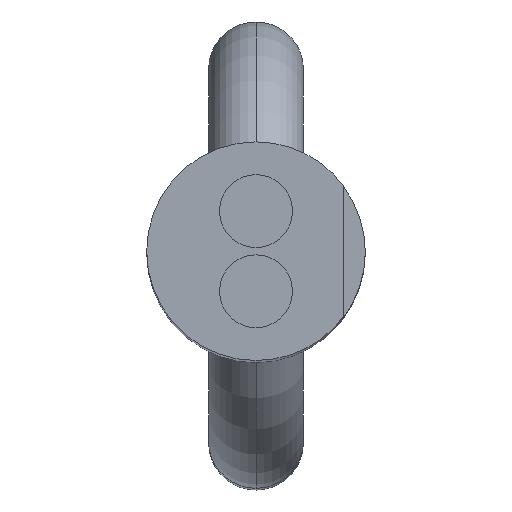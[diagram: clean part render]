
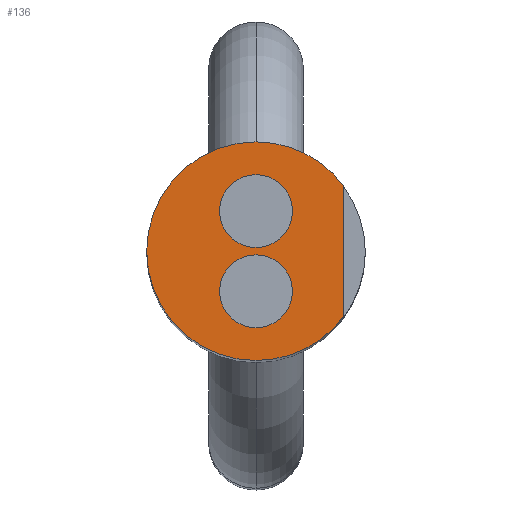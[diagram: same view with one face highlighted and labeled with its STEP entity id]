
A CAD part, top view. The second image highlights one B-rep face of the part: STEP entity #136.
In plain terms, the highlighted planar face has unit normal (0, 0, 1) as drawn and (-1, 0, 0) by its records, which use the part's own axes.
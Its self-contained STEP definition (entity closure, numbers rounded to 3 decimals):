
#27 = VERTEX_POINT ( 'NONE', #250 ) ;
#32 = EDGE_CURVE ( 'NONE', #27, #33, #449, .T. ) ;
#33 = VERTEX_POINT ( 'NONE', #444 ) ;
#57 = VERTEX_POINT ( 'NONE', #276 ) ;
#77 = VERTEX_POINT ( 'NONE', #235 ) ;
#83 = VERTEX_POINT ( 'NONE', #224 ) ;
#84 = ORIENTED_EDGE ( 'NONE', *, *, #85, .F. ) ;
#85 = EDGE_CURVE ( 'NONE', #33, #27, #463, .T. ) ;
#86 = ORIENTED_EDGE ( 'NONE', *, *, #32, .F. ) ;
#87 = EDGE_LOOP ( 'NONE', ( #88, #90 ) ) ;
#88 = ORIENTED_EDGE ( 'NONE', *, *, #89, .F. ) ;
#89 = EDGE_CURVE ( 'NONE', #77, #57, #458, .T. ) ;
#90 = ORIENTED_EDGE ( 'NONE', *, *, #122, .F. ) ;
#91 = EDGE_LOOP ( 'NONE', ( #92, #94, #95, #175 ) ) ;
#92 = ORIENTED_EDGE ( 'NONE', *, *, #93, .T. ) ;
#93 = EDGE_CURVE ( 'NONE', #83, #97, #453, .T. ) ;
#94 = ORIENTED_EDGE ( 'NONE', *, *, #96, .F. ) ;
#95 = ORIENTED_EDGE ( 'NONE', *, *, #135, .F. ) ;
#96 = EDGE_CURVE ( 'NONE', #106, #97, #415, .T. ) ;
#97 = VERTEX_POINT ( 'NONE', #410 ) ;
#106 = VERTEX_POINT ( 'NONE', #394 ) ;
#122 = EDGE_CURVE ( 'NONE', #57, #77, #535, .T. ) ;
#135 = EDGE_CURVE ( 'NONE', #139, #106, #499, .T. ) ;
#136 = ADVANCED_FACE ( 'NONE', ( #494, #493, #492 ), #491, .F. ) ;
#137 = EDGE_LOOP ( 'NONE', ( #84, #86 ) ) ;
#138 = EDGE_CURVE ( 'NONE', #83, #139, #486, .T. ) ;
#139 = VERTEX_POINT ( 'NONE', #481 ) ;
#175 = ORIENTED_EDGE ( 'NONE', *, *, #138, .F. ) ;
#224 = CARTESIAN_POINT ( 'NONE',  ( 0., 1.2, 0.9 ) ) ;
#235 = CARTESIAN_POINT ( 'NONE',  ( 0., 0., 1.05 ) ) ;
#250 = CARTESIAN_POINT ( 'NONE',  ( 0., 0., -1.05 ) ) ;
#276 = CARTESIAN_POINT ( 'NONE',  ( 0., 0., 0.05 ) ) ;
#394 = CARTESIAN_POINT ( 'NONE',  ( 0., 0., -1.5 ) ) ;
#410 = CARTESIAN_POINT ( 'NONE',  ( 0., 1.2, -0.9 ) ) ;
#411 = DIRECTION ( 'NONE',  ( 0., 0., -1. ) ) ;
#412 = DIRECTION ( 'NONE',  ( 1., 0., 0. ) ) ;
#413 = CARTESIAN_POINT ( 'NONE',  ( 0., 0., 0. ) ) ;
#414 = AXIS2_PLACEMENT_3D ( 'NONE', #413, #412, #411 ) ;
#415 = CIRCLE ( 'NONE', #414, 1.5 ) ;
#444 = CARTESIAN_POINT ( 'NONE',  ( 0., 0., -0.05 ) ) ;
#445 = DIRECTION ( 'NONE',  ( 0., 0., 1. ) ) ;
#446 = DIRECTION ( 'NONE',  ( -1., 0., 0. ) ) ;
#447 = CARTESIAN_POINT ( 'NONE',  ( 0., 0., -0.55 ) ) ;
#448 = AXIS2_PLACEMENT_3D ( 'NONE', #447, #446, #445 ) ;
#449 = CIRCLE ( 'NONE', #448, 0.5 ) ;
#450 = DIRECTION ( 'NONE',  ( 0., 0., -1. ) ) ;
#451 = VECTOR ( 'NONE', #450, 1000. ) ;
#452 = CARTESIAN_POINT ( 'NONE',  ( 0., 1.2, -0.9 ) ) ;
#453 = LINE ( 'NONE', #452, #451 ) ;
#454 = DIRECTION ( 'NONE',  ( 0., 0., 1. ) ) ;
#455 = DIRECTION ( 'NONE',  ( -1., 0., 0. ) ) ;
#456 = CARTESIAN_POINT ( 'NONE',  ( 0., 0., 0.55 ) ) ;
#457 = AXIS2_PLACEMENT_3D ( 'NONE', #456, #455, #454 ) ;
#458 = CIRCLE ( 'NONE', #457, 0.5 ) ;
#459 = DIRECTION ( 'NONE',  ( 0., 0., 1. ) ) ;
#460 = DIRECTION ( 'NONE',  ( -1., 0., 0. ) ) ;
#461 = CARTESIAN_POINT ( 'NONE',  ( 0., 0., -0.55 ) ) ;
#462 = AXIS2_PLACEMENT_3D ( 'NONE', #461, #460, #459 ) ;
#463 = CIRCLE ( 'NONE', #462, 0.5 ) ;
#481 = CARTESIAN_POINT ( 'NONE',  ( 0., 0., 1.5 ) ) ;
#482 = DIRECTION ( 'NONE',  ( 0., 0., -1. ) ) ;
#483 = DIRECTION ( 'NONE',  ( 1., 0., 0. ) ) ;
#484 = CARTESIAN_POINT ( 'NONE',  ( 0., 0., 0. ) ) ;
#485 = AXIS2_PLACEMENT_3D ( 'NONE', #484, #483, #482 ) ;
#486 = CIRCLE ( 'NONE', #485, 1.5 ) ;
#487 = DIRECTION ( 'NONE',  ( 0., 0., -1. ) ) ;
#488 = DIRECTION ( 'NONE',  ( 1., 0., 0. ) ) ;
#489 = CARTESIAN_POINT ( 'NONE',  ( 0., 0., 0. ) ) ;
#490 = AXIS2_PLACEMENT_3D ( 'NONE', #489, #488, #487 ) ;
#491 = PLANE ( 'NONE',  #490 ) ;
#492 = FACE_OUTER_BOUND ( 'NONE', #91, .T. ) ;
#493 = FACE_BOUND ( 'NONE', #87, .T. ) ;
#494 = FACE_BOUND ( 'NONE', #137, .T. ) ;
#495 = DIRECTION ( 'NONE',  ( 0., 0., -1. ) ) ;
#496 = DIRECTION ( 'NONE',  ( 1., 0., 0. ) ) ;
#497 = CARTESIAN_POINT ( 'NONE',  ( 0., 0., 0. ) ) ;
#498 = AXIS2_PLACEMENT_3D ( 'NONE', #497, #496, #495 ) ;
#499 = CIRCLE ( 'NONE', #498, 1.5 ) ;
#531 = DIRECTION ( 'NONE',  ( 0., 0., 1. ) ) ;
#532 = DIRECTION ( 'NONE',  ( -1., 0., 0. ) ) ;
#533 = CARTESIAN_POINT ( 'NONE',  ( 0., 0., 0.55 ) ) ;
#534 = AXIS2_PLACEMENT_3D ( 'NONE', #533, #532, #531 ) ;
#535 = CIRCLE ( 'NONE', #534, 0.5 ) ;
